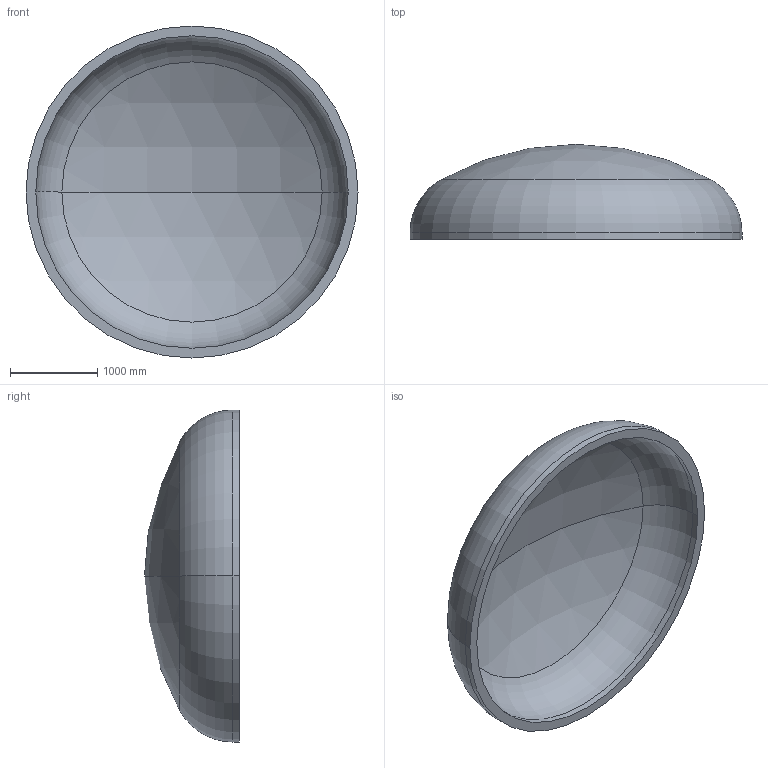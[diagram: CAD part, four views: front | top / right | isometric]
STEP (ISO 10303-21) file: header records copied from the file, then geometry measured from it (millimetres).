
FILE_DESCRIPTION (( 'STEP AP203' ), '1' );
FILE_NAME ('DIN 28013 Korbbogenform_-_Boden DIN 28013 - 3800 x 75 - I - s=112.step', '2016-07-01T21:52:29', ( '' ), ( '' ), 'SwSTEP 2.0', 'SolidWorks 2013', '' );
FILE_SCHEMA (( 'CONFIG_CONTROL_DESIGN' ));
Length unit declared in the file: millimetre
Products named in the file (1): DIN 28013 Korbbogenform_-_Boden DIN 28013 - 3800 x 75 - I - s=112
Bounding box: 3800 x 1086.95 x 3800 mm (x, y, z)
Volume: 1789950468.5 mm3; surface area: 33287316.1 mm2
Topology: 1 solids, 1 shells, 13 faces, 24 edges, 14 vertices
Faces by surface type: torus 4, cylinder 4, sphere 4, plane 1
Entity records: 407 total; most frequent: DIRECTION 72, CARTESIAN_POINT 52, ORIENTED_EDGE 48, AXIS2_PLACEMENT_3D 34, EDGE_CURVE 24, CIRCLE 20, VERTEX_POINT 14, EDGE_LOOP 14
